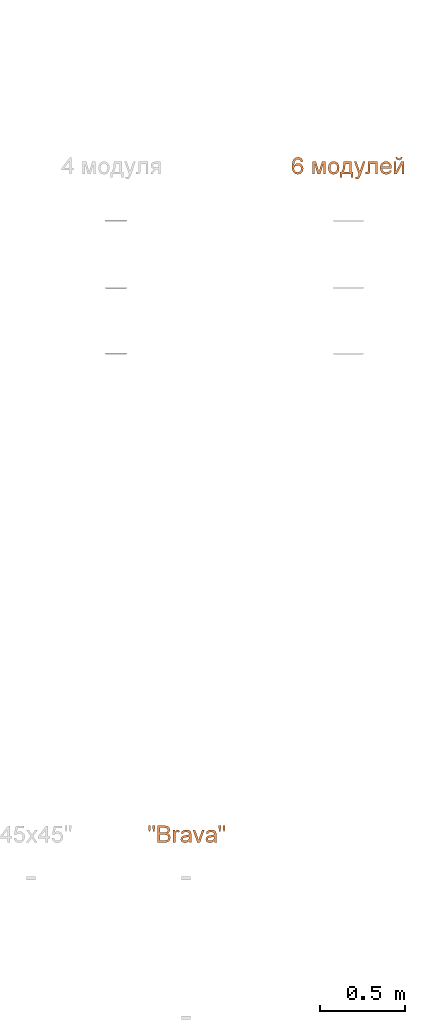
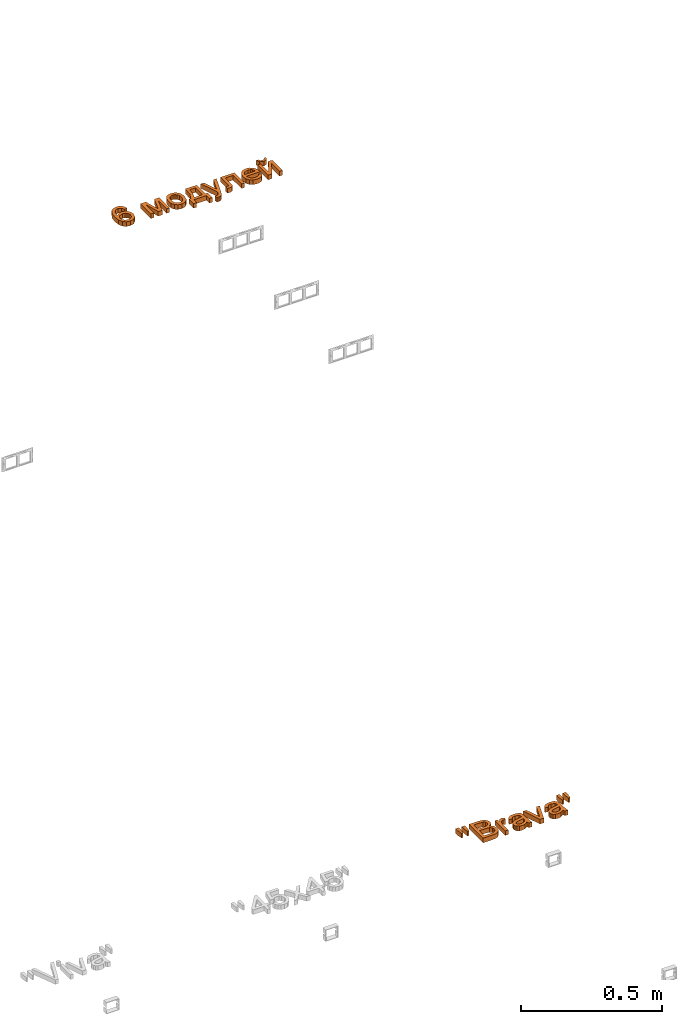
# One storey, part 71 of 87: 2 proxies.
"""IFC2X3 building model written with IfcOpenShell, lengths in millimetres."""

from ifc_helpers import new_model, entity, si_unit, converted_unit, derived_unit, direction, frame, origin, place, context, subcontext, project, spatial, polyline, outline, extrude, element, save


model = new_model("IFC2X3")

# Units and contexts
model_context = context("Model", 3, precision=0.01, world=origin(), true_north=direction((6.12303176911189e-17, 1.0)))
body_context = subcontext(model_context, "Body", "Model", "MODEL_VIEW")
ifc_project = project(units=[si_unit("LENGTHUNIT", "METRE", prefix="MILLI"), si_unit("AREAUNIT", "SQUARE_METRE"), si_unit("VOLUMEUNIT", "CUBIC_METRE"), converted_unit("PLANEANGLEUNIT", "DEGREE", entity("IfcRatioMeasure", 0.0174532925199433), si_unit("PLANEANGLEUNIT", "RADIAN"), dimensions=[0, 0, 0, 0, 0, 0, 0]), si_unit("MASSUNIT", "GRAM", prefix="KILO"), derived_unit("MASSDENSITYUNIT", [(si_unit("MASSUNIT", "GRAM", prefix="KILO"), 1), (si_unit("LENGTHUNIT", "METRE"), -3)]), si_unit("TIMEUNIT", "SECOND"), si_unit("FREQUENCYUNIT", "HERTZ"), si_unit("THERMODYNAMICTEMPERATUREUNIT", "DEGREE_CELSIUS"), derived_unit("THERMALTRANSMITTANCEUNIT", [(si_unit("MASSUNIT", "GRAM", prefix="KILO"), 1), (si_unit("THERMODYNAMICTEMPERATUREUNIT", "KELVIN"), -1), (si_unit("TIMEUNIT", "SECOND"), -3)]), derived_unit("VOLUMETRICFLOWRATEUNIT", [(si_unit("LENGTHUNIT", "METRE"), 3), (si_unit("TIMEUNIT", "SECOND"), -1)]), si_unit("ELECTRICCURRENTUNIT", "AMPERE"), si_unit("ELECTRICVOLTAGEUNIT", "VOLT"), si_unit("POWERUNIT", "WATT"), si_unit("FORCEUNIT", "NEWTON", prefix="KILO"), si_unit("ILLUMINANCEUNIT", "LUX"), si_unit("LUMINOUSFLUXUNIT", "LUMEN"), si_unit("LUMINOUSINTENSITYUNIT", "CANDELA"), derived_unit("USERDEFINED", [(si_unit("MASSUNIT", "GRAM", prefix="KILO"), -1), (si_unit("LENGTHUNIT", "METRE"), -2), (si_unit("TIMEUNIT", "SECOND"), 3), (si_unit("LUMINOUSFLUXUNIT", "LUMEN"), 1)]), derived_unit("LINEARVELOCITYUNIT", [(si_unit("LENGTHUNIT", "METRE"), 1), (si_unit("TIMEUNIT", "SECOND"), -1)]), si_unit("PRESSUREUNIT", "PASCAL"), derived_unit("USERDEFINED", [(si_unit("LENGTHUNIT", "METRE"), -2), (si_unit("MASSUNIT", "GRAM", prefix="KILO"), 1), (si_unit("TIMEUNIT", "SECOND"), -2)])], contexts=[model_context])

# Site, building, storey
site_placement = place(None, origin())
site = spatial("IfcSite", under=ifc_project, at=site_placement, Name="Default", CompositionType="ELEMENT")
building_placement = place(site_placement, origin())
building = spatial("IfcBuilding", under=site, at=building_placement, Name="Наименование здания", CompositionType="ELEMENT")
storey_placement = place(building_placement, origin())
storey = spatial("IfcBuildingStorey", under=building, at=storey_placement, Name="Этаж 01", CompositionType="ELEMENT", Elevation=0.0)

# Proxies
proxy_1_placement = place(storey_placement, origin())
element("IfcBuildingElementProxy", 1, at=proxy_1_placement, inside=storey, Name="Текст модели:100 мм Arial", ObjectType="Текст модели:100 мм Arial", context=body_context, shape_type="SweptSolid", body=[
    extrude(outline(polyline([(6.79275401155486, -32.5027761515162), (18.3659045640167, -32.5027761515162), (28.1525204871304, -28.8011371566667), (35.631293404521, -21.717870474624), (40.2809149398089, -11.5729874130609), (41.4130789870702, 3.23667074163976), (36.1391243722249, 16.3729018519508), (21.8599739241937, 28.8803269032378), (-1.50836821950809, 38.2054593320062), (-23.6059131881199, 41.7609274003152), (-39.9814227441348, 38.5965283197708), (-51.1650797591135, 29.9216784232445), (-57.6870671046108, 16.9457940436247), (-57.980555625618, -0.0494879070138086), (-49.2081886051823, -14.3141019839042), (-33.616785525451, -22.935056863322), (-20.6265742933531, -24.2502330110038), (-8.97800352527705, -20.6254922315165), (0.0919027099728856, -13.0350962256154), (5.34612034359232, -2.45330669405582), (5.85483161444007, 11.6447254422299), (-0.843339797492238, 24.9910631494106), (19.7707676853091, 15.5765036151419), (28.4840991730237, 4.26766164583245), (28.389351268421, -7.4637453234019), (19.9956250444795, -18.1936336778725), (8.63303585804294, -19.9825396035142), (6.79275401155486, -32.5027761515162)]), holes=[polyline([(-18.758671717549, 29.9549594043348), (-11.6328110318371, 26.36133620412), (-6.94154076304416, 20.2038317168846), (-5.85783236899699, 4.13761066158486), (-9.48331864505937, -3.95286412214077), (-15.1077394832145, -9.26901644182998), (-22.3091633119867, -11.5969098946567), (-30.6656585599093, -10.7226080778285), (-38.60944917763, -7.06141592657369), (-43.863709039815, -1.22509865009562), (-46.1835287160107, 6.17768396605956), (-45.3239987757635, 14.5382721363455), (-39.6901171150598, 24.7221971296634), (-30.0168134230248, 30.0585493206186), (-18.758671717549, 29.9549594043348)])]), frame((79770.4636783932, -1369.92665686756, 0.0), z_axis=(0.0, 0.0, 1.0), x_axis=(-0.267015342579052, 0.963692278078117, 0.0)), (0.0, 0.0, 1.0), 20.0),
    extrude(outline(polyline([(-40.58398707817, -38.4502715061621), (33.1886156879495, -38.4502715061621), (33.1886156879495, -25.8932327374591), (-29.0570178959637, -25.8932327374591), (33.1886156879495, -8.62730443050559), (33.1886156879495, 7.8538089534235), (-26.21206379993, 25.9045521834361), (33.1886156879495, 25.9045521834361), (33.1886156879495, 38.4615909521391), (-40.58398707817, 38.4615909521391), (-40.58398707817, 17.762097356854), (18.4733358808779, -0.190544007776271), (-40.58398707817, -16.8433356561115), (-40.58398707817, -38.4502715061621)])), frame((79893.3598993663, -1395.28577944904, 0.0), z_axis=(0.0, 0.0, 1.0), x_axis=(0.0, -1.0, 0.0)), (0.0, 0.0, 1.0), 20.0),
    extrude(outline(polyline([(-2.34029740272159, -31.6984909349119), (14.2731811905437, -31.698490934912), (27.1869525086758, -26.5873672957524), (35.9909592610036, -17.1811275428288), (40.275144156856, -4.29577920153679), (38.1491713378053, 13.1690451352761), (27.2514955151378, 26.6485362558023), (5.67797919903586, 33.7446283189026), (-10.1280544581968, 33.6081083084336), (-22.8059382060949, 28.3900569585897), (-31.6389568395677, 18.9754531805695), (-35.9103951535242, 6.24927588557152), (-35.5406401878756, -5.97109031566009), (-30.8535887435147, -16.7835237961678), (-19.5870121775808, -26.569234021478), (-2.34029740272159, -31.6984909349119)]), holes=[polyline([(-0.642949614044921, -19.2566729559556), (-11.6948097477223, -16.2599663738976), (-19.0989004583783, -10.8341828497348), (-22.9822632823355, -3.6735675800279), (-23.471939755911, 4.52763423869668), (-20.7783225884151, 12.2046648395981), (-15.078178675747, 18.0357050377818), (-6.56600936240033, 21.2863283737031), (4.56368400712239, 21.2221083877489), (15.8675929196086, 18.1905150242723), (23.3961896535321, 12.7474982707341), (27.3267847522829, 5.59272509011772), (27.836688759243, -2.57413755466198), (25.1317228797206, -10.3331599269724), (19.431158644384, -16.1672368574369), (10.8134498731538, -19.3753979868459), (-0.642949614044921, -19.2566729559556)])]), frame((79979.2378006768, -1389.56024644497, 0.0), z_axis=(0.0, 0.0, 1.0), x_axis=(0.137105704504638, -0.990556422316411, 0.0)), (0.0, 0.0, 1.0), 20.0),
    extrude(outline(polyline([(-60.53577414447, 21.858540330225), (-64.1355131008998, -25.0925613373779), (-3.09908093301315, -29.7722219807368), (-3.81902872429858, -39.1624423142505), (29.0467424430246, -41.6822595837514), (30.0066728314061, -29.1619658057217), (9.66119544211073, -27.602078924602), (13.6209082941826, 24.0441329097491), (33.966385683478, 22.4842460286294), (34.9263160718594, 35.0045398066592), (2.06054490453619, 37.5243570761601), (1.46058841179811, 29.6991734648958), (-23.1599571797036, 21.858540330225), (-60.53577414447, 21.858540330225)]), holes=[polyline([(-48.8554194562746, 9.94335288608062), (-20.1051961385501, 10.6907678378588), (0.3806667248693, 15.6138429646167), (-2.13915054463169, -17.2519282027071), (-50.6552889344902, -13.5321979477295), (-48.8554194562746, 9.94335288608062)])]), frame((80055.7232030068, -1416.73141319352, 0.0), z_axis=(0.0, 0.0, -1.0), x_axis=(-0.0764456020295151, -0.9970737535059, 0.0)), (0.0, 0.0, -1.0), 20.0),
    extrude(outline(polyline([(-9.37518561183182, -42.4598564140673), (-1.53988444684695, -42.4598564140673), (7.48239978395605, -37.7362595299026), (12.8451650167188, -27.6028387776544), (16.0988896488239, -10.2155558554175), (26.1240678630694, 68.9356869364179), (13.2448947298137, 66.3022457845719), (7.58427059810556, 21.3872733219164), (5.65333119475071, 6.22303112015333), (-2.45833389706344, 21.2864004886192), (-24.5276055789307, 58.5787952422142), (-37.5028919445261, 55.9257015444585), (3.36457727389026, -10.7416452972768), (3.01267387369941, -13.9176809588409), (1.50096319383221, -23.6641922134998), (-1.30543571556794, -28.1807080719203), (-6.86672236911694, -30.7321996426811), (-13.3351736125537, -30.9283412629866), (-9.37518561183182, -42.4598564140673)])), frame((80126.8806993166, -1417.00669583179, 0.0), z_axis=(0.0, 0.0, 1.0), x_axis=(0.979728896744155, -0.200327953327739, 0.0)), (0.0, 0.0, 1.0), 20.0),
    extrude(outline(polyline([(-49.3689973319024, 12.5447760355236), (-49.3689973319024, -43.9618984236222), (24.3300290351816, -43.9618984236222), (24.3300290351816, -31.4048596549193), (-36.8119585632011, -31.4048596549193), (-36.8119585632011, -0.0122627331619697), (-1.61791435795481, -0.0122627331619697), (14.6179443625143, 0.833865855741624), (21.4728122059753, 5.4814417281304), (24.403605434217, 16.4688506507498), (23.765943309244, 26.6714446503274), (11.846566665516, 26.6714446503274), (11.846566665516, 21.0551128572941), (11.0740144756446, 15.3774673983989), (8.62146784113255, 13.1088617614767), (-2.32915288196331, 12.5447760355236), (-49.3689973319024, 12.5447760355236)])), frame((80195.507041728, -1404.07078970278, 0.0), z_axis=(0.0, 0.0, -1.0), x_axis=(0.0, -1.0, 0.0)), (0.0, 0.0, -1.0), 20.0),
    extrude(outline(polyline([(-8.10128238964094, -20.3751729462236), (-15.5352214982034, -30.3140016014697), (-5.78400372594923, -33.5775071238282), (4.12185089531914, -33.3132173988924), (13.8776168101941, -29.4480778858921), (23.1785684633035, -21.9090340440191), (31.6380426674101, -9.59237957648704), (34.1620486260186, 3.74135328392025), (30.6040508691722, 17.2442201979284), (20.8175139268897, 30.0682768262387), (7.27698270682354, 39.784672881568), (-6.6617952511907, 43.1117813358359), (-19.9642596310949, 40.4221234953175), (-31.5958501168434, 32.0882206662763), (-39.2435519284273, 20.5090048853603), (-41.3106827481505, 7.34319797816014), (-37.4373707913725, -6.34962495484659), (-27.2637442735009, -19.5098888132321), (-24.7804584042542, -21.8106804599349), (14.4643272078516, 18.7422646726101), (19.7071986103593, 10.6437992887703), (21.1614672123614, 2.2100505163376), (19.147208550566, -5.98136753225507), (13.9844981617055, -13.3528407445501), (3.53684605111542, -20.3751729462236), (-8.10128238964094, -20.3751729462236)]), holes=[polyline([(5.44081225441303, 27.4746984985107), (-25.1227061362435, -4.10760383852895), (-29.803881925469, 7.41909510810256), (-27.8851342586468, 15.7498710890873), (-22.5382240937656, 23.3910349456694), (-8.40970331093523, 31.236865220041), (-1.08072680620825, 30.9147288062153), (5.44081225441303, 27.4746984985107)])]), frame((80289.6796821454, -1398.15184431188, 0.0), z_axis=(0.0, 0.0, -1.0), x_axis=(-0.695421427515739, -0.718602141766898, 0.0)), (0.0, 0.0, -1.0), 20.0),
    extrude(outline(polyline([(-11.1429830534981, -6.65049913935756), (-15.314140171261, -15.0941956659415), (-0.0922190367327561, -15.8161107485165), (10.2631635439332, -5.84547547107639), (12.4162171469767, 9.42172447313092), (2.76087400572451, 21.4951559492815), (-1.41028311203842, 13.0514594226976), (3.36929976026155, 6.75127419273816), (2.31913688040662, -0.662833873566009), (-3.16906596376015, -6.65049913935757), (-11.1429830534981, -6.65049913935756)])), frame((80365.1288457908, -1335.06302519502, 0.0), z_axis=(0.0, 0.0, -1.0), x_axis=(-0.442902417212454, -0.896569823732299, 0.0)), (0.0, 0.0, -1.0), 20.0),
    extrude(outline(polyline([(-36.9206370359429, -29.8425874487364), (36.8519657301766, -29.8425874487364), (36.8519657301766, -13.4105249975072), (-19.0660975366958, 17.2463079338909), (36.8519657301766, 17.2463079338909), (36.8519657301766, 29.8033467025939), (-36.9206370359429, 29.8033467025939), (-36.9206370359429, 13.5674879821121), (19.3407827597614, -17.2855486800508), (-36.9206370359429, -17.2855486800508), (-36.9206370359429, -29.8425874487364)])), frame((80365.0589482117, -1391.62242940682, 0.0), z_axis=(0.0, 0.0, 1.0), x_axis=(0.0, -1.0, 0.0)), (0.0, 0.0, 1.0), 20.0),
])
proxy_2_placement = place(storey_placement, origin())
element("IfcBuildingElementProxy", 2, at=proxy_2_placement, inside=storey, Name="Текст модели:100 мм Arial", ObjectType="Текст модели:100 мм Arial", context=body_context, shape_type="SweptSolid", body=[
    extrude(outline(polyline([(-3.2659746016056, -18.5003767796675), (3.47852864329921, -18.5003767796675), (6.22538087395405, 0.89926709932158), (6.22538087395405, 17.6011096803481), (-6.33165789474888, 17.6011096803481), (-6.33165789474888, 0.89926709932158), (-3.2659746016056, -18.5003767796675)])), frame((78894.5666541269, -5285.83617064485, 0.0)), (0.0, 0.0, 1.0), 20.0),
    extrude(outline(polyline([(-52.8068326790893, -48.6909338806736), (-14.7678343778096, -48.6909338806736), (1.33313427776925, -46.9618885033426), (12.2592295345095, -41.8605915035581), (19.5800812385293, -32.2466086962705), (22.5353999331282, -18.7453394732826), (18.2066551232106, -3.12261741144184), (5.83355735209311, 6.24611073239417), (16.0238886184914, 15.1365922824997), (19.3961402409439, 26.8720279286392), (15.3862264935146, 39.7233722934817), (4.30071570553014, 48.8100575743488), (-14.4735287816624, 51.7653762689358), (-52.8068326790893, 51.7653762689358), (-52.8068326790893, -48.6909338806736)]), holes=[polyline([(-40.2497939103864, 10.9550002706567), (-40.2497939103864, 39.208337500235), (-19.0597909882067, 39.208337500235), (-2.92203413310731, 37.8962250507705), (4.31297843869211, 33.0524454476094), (6.83910147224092, 24.8609396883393), (4.12903744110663, 16.681696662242), (-3.92757825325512, 12.0341207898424), (-17.3184828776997, 10.9550002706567), (-40.2497939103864, 10.9550002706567)]), polyline([(-40.2497939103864, -36.1338951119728), (-40.2497939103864, -1.60203849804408), (-15.7243275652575, -1.60203849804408), (-0.21197010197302, -3.28203294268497), (7.57486546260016, -9.10683119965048), (9.97836116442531, -18.8679668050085), (7.93048472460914, -27.3292526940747), (2.70656039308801, -32.9087962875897), (-5.17837703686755, -35.6433857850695), (-14.4980542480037, -36.1338951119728), (-40.2497939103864, -36.1338951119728)])]), frame((78995.9788735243, -5320.00043723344, 0.0)), (0.0, 0.0, 1.0), 20.0),
    extrude(outline(polyline([(-17.44043643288, -54.2805167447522), (-4.88339766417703, -54.2805167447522), (-4.88339766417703, -15.5057544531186), (-2.84778395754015, -0.839525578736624), (1.6771645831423, 6.02760499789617), (8.7772870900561, 8.50467709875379), (17.6064549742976, 5.92950313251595), (21.8003097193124, 17.1866921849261), (9.19422001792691, 21.0617158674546), (1.34607078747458, 18.6336946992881), (-6.45302751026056, 8.57825349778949), (-6.45302751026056, 19.4920860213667), (-17.44043643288, 19.4920860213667), (-17.44043643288, -54.2805167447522)])), frame((79051.6510083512, -5314.41085436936, 0.0)), (0.0, 0.0, 1.0), 20.0),
    extrude(outline(polyline([(32.050823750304, 7.88266535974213), (41.9780345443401, 7.88266535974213), (45.9489188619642, 19.79531831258), (35.1414436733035, 20.7608946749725), (14.243889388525, 27.0545912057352), (-0.57712610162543, 31.9949297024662), (-11.1945882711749, 34.8877809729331), (-20.4974705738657, 33.9299602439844), (-28.5323068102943, 27.5470739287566), (-35.4619652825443, 13.8157249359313), (-38.3044049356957, -2.69989645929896), (-34.9462156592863, -15.3493345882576), (-25.0306383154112, -24.3807697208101), (-19.5706723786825, -12.9644773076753), (-25.7868125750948, -4.5069590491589), (-24.0611841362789, 8.30922519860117), (-16.2279943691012, 20.3304570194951), (-6.33956174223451, 20.6794605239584), (-3.71040200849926, 19.7255176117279), (-6.50243004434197, -2.30048133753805), (-8.14662433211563, -13.2049019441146), (-7.01817966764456, -22.8490321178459), (-2.17478658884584, -31.1204151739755), (6.48825595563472, -36.5416029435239), (15.0010331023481, -37.7020395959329), (22.9495879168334, -35.3200906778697), (29.6378522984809, -29.3899394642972), (34.3697581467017, -19.9057692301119), (36.2737661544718, -6.36055543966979), (32.050823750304, 7.88266535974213)]), holes=[polyline([(8.22551784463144, 15.8244339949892), (11.5759514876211, 14.6300664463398), (20.1614376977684, 9.67421668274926), (24.4696920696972, -0.39647332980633), (23.3024692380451, -13.3987927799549), (17.249197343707, -22.9498553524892), (9.62153186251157, -24.3497471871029), (5.5808468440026, -21.1932043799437), (3.98706417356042, -15.5044472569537), (5.47226797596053, -4.61166010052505), (8.22551784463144, 15.8244339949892)])]), frame((79110.7748493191, -5331.3602285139, 0.0), z_axis=(0.0, 0.0, 1.0), x_axis=(0.316227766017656, -0.948683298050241, 0.0)), (0.0, 0.0, 1.0), 20.0),
    extrude(outline(polyline([(-7.82362376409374, -40.9030277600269), (8.09340389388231, -40.9030277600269), (33.7225162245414, 32.869575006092), (20.4297134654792, 32.869575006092), (4.61078767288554, -12.1591812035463), (-0.0245254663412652, -26.1877479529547), (-4.75794047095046, -11.3253153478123), (-20.4787643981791, 32.869575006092), (-33.7715671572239, 32.869575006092), (-7.82362376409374, -40.9030277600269)])), frame((79184.134747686, -5327.78834335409, 0.0)), (0.0, 0.0, 1.0), 20.0),
    extrude(outline(polyline([(32.05082375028, 7.88266535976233), (41.9780345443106, 7.88266535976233), (45.9489188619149, 19.7953183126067), (35.1414436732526, 20.7608946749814), (14.2438893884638, 27.0545912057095), (-0.577126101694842, 31.9949297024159), (-11.1945882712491, 34.8877809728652), (-20.4974705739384, 33.9299602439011), (-28.5323068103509, 27.5470739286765), (-35.4619652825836, 13.8157249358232), (-38.3044049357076, -2.69989645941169), (-34.9462156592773, -15.3493345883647), (-25.0306383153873, -24.3807697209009), (-19.5706723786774, -12.964477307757), (-25.7868125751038, -4.50695904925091), (-24.0611841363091, 8.30922519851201), (-16.2279943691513, 20.3304570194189), (-6.33956174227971, 20.6794605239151), (-3.71040200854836, 19.7255176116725), (-6.5024300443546, -2.30048133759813), (-8.14662433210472, -13.204901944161), (-7.01817966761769, -22.8490321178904), (-2.17478658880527, -31.120415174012), (6.48825595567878, -36.5416029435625), (15.0010331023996, -37.7020395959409), (22.9495879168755, -35.320090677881), (29.6378522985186, -29.389939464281), (34.3697581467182, -19.9057692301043), (36.2737661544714, -6.3605554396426), (32.05082375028, 7.88266535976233)]), holes=[polyline([(8.22551784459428, 15.8244339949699), (11.5759514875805, 14.6300664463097), (20.161437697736, 9.67421668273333), (24.4696920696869, -0.396473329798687), (23.3024692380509, -13.3987927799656), (17.2491973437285, -22.9498553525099), (9.62153186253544, -24.3497471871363), (5.58084684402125, -21.1932043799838), (3.98706417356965, -15.5044472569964), (5.47226797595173, -4.6116601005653), (8.22551784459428, 15.8244339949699)])]), frame((79258.3200548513, -5331.3602285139, 0.0), z_axis=(0.0, 0.0, 1.0), x_axis=(0.316227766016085, -0.948683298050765, 0.0)), (0.0, 0.0, 1.0), 20.0),
    extrude(outline(polyline([(-3.26597460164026, -18.5003767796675), (3.47852864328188, -18.5003767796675), (6.2253808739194, 0.89926709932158), (6.2253808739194, 17.6011096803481), (-6.3316578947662, 17.6011096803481), (-6.3316578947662, 0.89926709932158), (-3.26597460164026, -18.5003767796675)])), frame((79308.9489334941, -5285.83617064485, 0.0)), (0.0, 0.0, 1.0), 20.0),
    extrude(outline(polyline([(-3.2945876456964, -18.5003767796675), (3.32728826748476, -18.5003767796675), (6.27034422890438, 0.89926709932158), (6.27034422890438, 17.6011096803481), (-6.28669453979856, 17.6011096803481), (-6.28669453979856, 0.89926709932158), (-3.2945876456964, -18.5003767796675)])), frame((78919.6357683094, -5285.83617064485, 0.0)), (0.0, 0.0, 1.0), 20.0),
    extrude(outline(polyline([(-3.29458764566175, -18.5003767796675), (3.32728826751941, -18.5003767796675), (6.2703442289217, 0.89926709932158), (6.2703442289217, 17.6011096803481), (-6.28669453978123, 17.6011096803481), (-6.28669453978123, 0.89926709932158), (-3.29458764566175, -18.5003767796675)])), frame((79334.0180476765, -5285.83617064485, 0.0)), (0.0, 0.0, 1.0), 20.0),
])

save(model, "model.ifc")
